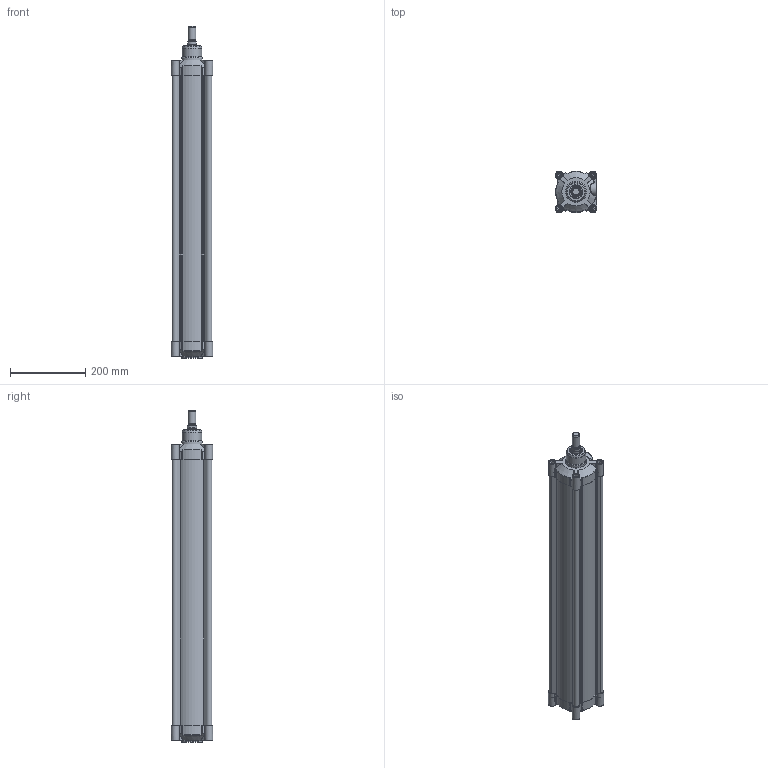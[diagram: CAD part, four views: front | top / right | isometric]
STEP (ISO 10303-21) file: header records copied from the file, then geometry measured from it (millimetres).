
FILE_DESCRIPTION(/* description */ (''),/* implementation_level */ '2;1');
FILE_NAME(/* name */ 'T:\Archivio Inventor\- 00 NUOVI STP PER SITO CON STELO CHE SI MUOVE\SERIE H - U\SERIE HDM\HDM100 - TUBO NUOVO\HDM100.650.GS.M.stp',/* time_stamp */ '2018-08-02T09:55:33+02:00',/* author */ ('carlo.corazza'),/* organization */ (''),/* preprocessor_version */ 'ST-DEVELOPER v16.5',/* originating_system */ 'Autodesk Inventor 2017',/* authorisation */ '');
FILE_SCHEMA (('AUTOMOTIVE_DESIGN { 1 0 10303 214 3 1 1 }'));
Length unit declared in the file: millimetre
Products named in the file (5): HDM100.650.GS.M; TP; TA; STELO-650; CORPO-650
Assembly tree (4 placements, depth 2):
  HDM100.650.GS.M
    TP
    TA
    STELO-650
    CORPO-650
Bounding box: 110 x 110 x 883 mm (x, y, z)
Volume: 2118186.9 mm3; surface area: 985063.4 mm2
Topology: 4 solids, 29 shells, 1355 faces, 3135 edges, 1912 vertices
Faces by surface type: plane 408, cylinder 313, bspline 270, torus 126, cone 122, sphere 116
Full cylindrical faces by diameter (mm): 5 x2, 5.9 x2, 6.5 x2, 7.25 x2, 8.376 x8, 9.4 x4, 10 x8, 10.3 x8, 11.8 x4, 11.9 x2, 12 x4, 16 x9, 16.3 x8, 17 x2, 17.5 x1, 18.631 x2, 20 x1, 24.5 x1, 25 x1, 25.8 x1, 25.962 x1, 30 x1, 31.5 x2, 35 x3, 52 x1, 55 x2, 100 x1
Entity records: 43668 total; most frequent: CARTESIAN_POINT 13702, ORIENTED_EDGE 5710, DIRECTION 5644, EDGE_CURVE 2855, AXIS2_PLACEMENT_3D 2293, VERTEX_POINT 1857, EDGE_LOOP 1690, STYLED_ITEM 1359
